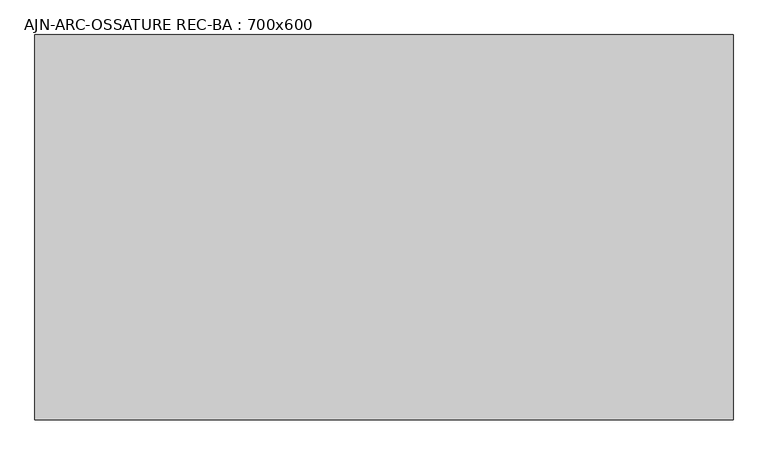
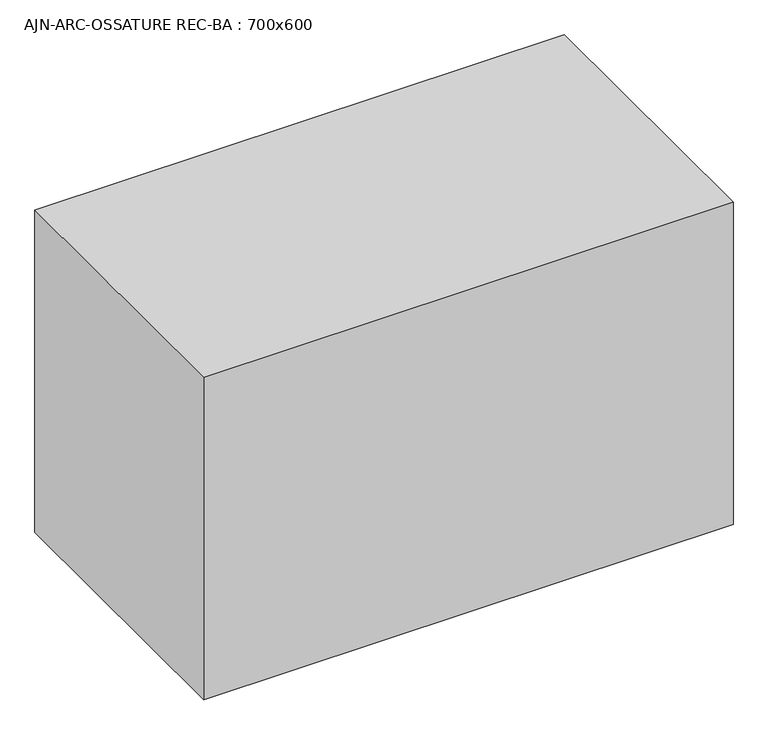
"""IFC4 building model written with IfcOpenShell, lengths in millimetres: beam geometry, AJN-ARC-OSSATURE REC-BA : 700x600."""

from ifc_helpers import new_model, si_unit, frame, origin, place, context, project, spatial, polyline, outline, extrude, source, transform, mapped, element, save


def ajn_arc_ossature_rec_ba_700x600_9f913ea5(model_context):
    return source(origin(), model_context, "Body", "SweptSolid", [
        extrude(outline(polyline([(600.0, 300.0), (600.0, -300.0), (-487.3, -300.0), (-487.3, 300.0), (600.0, 300.0)])), frame((0.0, 0.0, -350.0), z_axis=(0.0, 0.0, 1.0), x_axis=(1.0, 0.0, 0.0)), (0.0, 0.0, 1.0), 700.0),
    ])


if __name__ == "__main__":
    model = new_model("IFC4")
    model_context = context("Model", 3, world=origin())
    ifc_project = project(units=[si_unit("LENGTHUNIT", "METRE", prefix="MILLI")], contexts=[model_context])
    site = spatial("IfcSite", under=ifc_project)
    building = spatial("IfcBuilding", under=site)
    placement = place(None, origin())
    ajn_arc_ossature_rec_ba_700x600_shape = ajn_arc_ossature_rec_ba_700x600_9f913ea5(model_context)
    element("IfcBeam", 1, ObjectType="AJN-ARC-OSSATURE REC-BA : 700x600", at=placement, inside=building, context=model_context, shape_type="MappedRepresentation", body=[
        mapped(ajn_arc_ossature_rec_ba_700x600_shape, transform((0.0, 0.0, 0.0), x_axis=(1.0, 0.0, 0.0), y_axis=(0.0, 1.0, 0.0), z_axis=(0.0, 0.0, 1.0))),
    ])
    save(model, "model.ifc")
